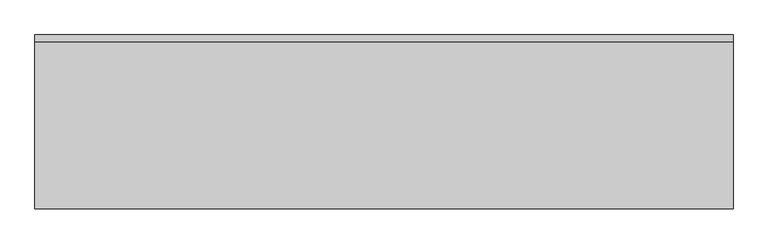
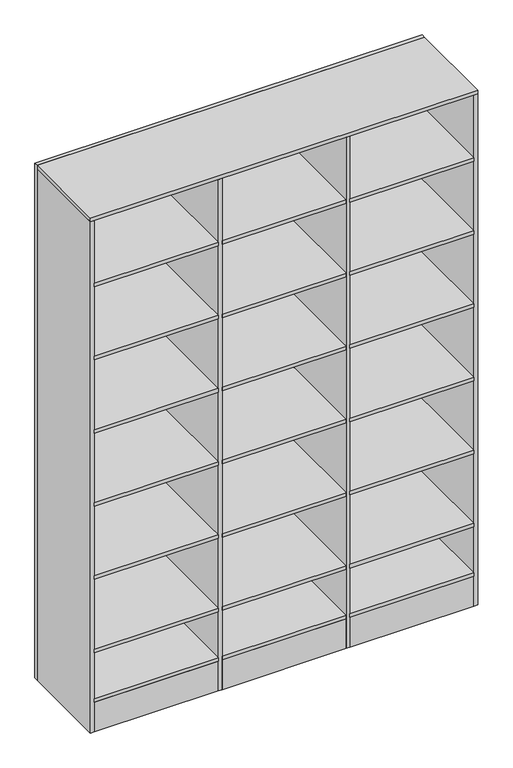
"""IFC4 building model written with IfcOpenShell, lengths in millimetres: furniture geometry, C20 Estanteria grande ADM : C20.3 Estanteria grande 46."""

from ifc_helpers import new_model, si_unit, frame, origin, place, context, project, spatial, polyline, outline, extrude, source, transform, mapped, element, save


def furniture_3ae75f37(model_context):
    return source(origin(), model_context, "Body", "SweptSolid", [
        extrude(outline(polyline([(969.7003264, 0.0), (969.7003264, -18.0), (-880.2996736, -18.0), (-880.2996736, 0.0), (969.7003264, 0.0)])), frame((0.0, 0.0, 20.0), z_axis=(0.0, 0.0, 1.0), x_axis=(1.0, 0.0, 0.0)), (0.0, 0.0, 1.0), 2600.0),
        extrude(outline(polyline([(951.7003264, -460.0), (359.0336598, -460.0), (359.0336598, -18.0), (951.7003264, -18.0), (951.7003264, -460.0)])), frame((0.0, 0.0, 789.6), z_axis=(0.0, 0.0, 1.0), x_axis=(1.0, 0.0, 0.0)), (0.0, 0.0, 1.0), 18.0),
        extrude(outline(polyline([(951.7003264, -460.0), (359.0336598, -460.0), (359.0336598, -18.0), (951.7003264, -18.0), (951.7003264, -460.0)])), frame((0.0, 0.0, 1159.2), z_axis=(0.0, 0.0, 1.0), x_axis=(1.0, 0.0, 0.0)), (0.0, 0.0, 1.0), 18.0),
        extrude(outline(polyline([(341.0336598, -460.0), (-251.6330069, -460.0), (-251.6330069, -18.0), (341.0336598, -18.0), (341.0336598, -460.0)])), frame((0.0, 0.0, 789.6), z_axis=(0.0, 0.0, 1.0), x_axis=(1.0, 0.0, 0.0)), (0.0, 0.0, 1.0), 18.0),
        extrude(outline(polyline([(341.0336598, -460.0), (-251.6330069, -460.0), (-251.6330069, -18.0), (341.0336598, -18.0), (341.0336598, -460.0)])), frame((0.0, 0.0, 1159.2), z_axis=(0.0, 0.0, 1.0), x_axis=(1.0, 0.0, 0.0)), (0.0, 0.0, 1.0), 18.0),
        extrude(outline(polyline([(-269.6330069, -460.0), (-862.2996736, -460.0), (-862.2996736, -18.0), (-269.6330069, -18.0), (-269.6330069, -460.0)])), frame((0.0, 0.0, 789.6), z_axis=(0.0, 0.0, 1.0), x_axis=(1.0, 0.0, 0.0)), (0.0, 0.0, 1.0), 18.0),
        extrude(outline(polyline([(-269.6330069, -460.0), (-862.2996736, -460.0), (-862.2996736, -18.0), (-269.6330069, -18.0), (-269.6330069, -460.0)])), frame((0.0, 0.0, 1159.2), z_axis=(0.0, 0.0, 1.0), x_axis=(1.0, 0.0, 0.0)), (0.0, 0.0, 1.0), 18.0),
        extrude(outline(polyline([(951.7003264, -460.0), (359.0336598, -460.0), (359.0336598, -18.0), (951.7003264, -18.0), (951.7003264, -460.0)])), frame((0.0, 0.0, 420.0), z_axis=(0.0, 0.0, 1.0), x_axis=(1.0, 0.0, 0.0)), (0.0, 0.0, 1.0), 18.0),
        extrude(outline(polyline([(341.0336598, -460.0), (-251.6330069, -460.0), (-251.6330069, -18.0), (341.0336598, -18.0), (341.0336598, -460.0)])), frame((0.0, 0.0, 420.0), z_axis=(0.0, 0.0, 1.0), x_axis=(1.0, 0.0, 0.0)), (0.0, 0.0, 1.0), 18.0),
        extrude(outline(polyline([(-269.6330069, -460.0), (-862.2996736, -460.0), (-862.2996736, -18.0), (-269.6330069, -18.0), (-269.6330069, -460.0)])), frame((0.0, 0.0, 420.0), z_axis=(0.0, 0.0, 1.0), x_axis=(1.0, 0.0, 0.0)), (0.0, 0.0, 1.0), 18.0),
        extrude(outline(polyline([(951.7003264, -460.0), (359.0336598, -460.0), (359.0336598, -18.0), (951.7003264, -18.0), (951.7003264, -460.0)])), frame((0.0, 0.0, 170.0), z_axis=(0.0, 0.0, 1.0), x_axis=(1.0, 0.0, 0.0)), (0.0, 0.0, 1.0), 18.0),
        extrude(outline(polyline([(341.0336598, -460.0), (-251.6330069, -460.0), (-251.6330069, -18.0), (341.0336598, -18.0), (341.0336598, -460.0)])), frame((0.0, 0.0, 170.0), z_axis=(0.0, 0.0, 1.0), x_axis=(1.0, 0.0, 0.0)), (0.0, 0.0, 1.0), 18.0),
        extrude(outline(polyline([(-269.6330069, -460.0), (-862.2996736, -460.0), (-862.2996736, -18.0), (-269.6330069, -18.0), (-269.6330069, -460.0)])), frame((0.0, 0.0, 170.0), z_axis=(0.0, 0.0, 1.0), x_axis=(1.0, 0.0, 0.0)), (0.0, 0.0, 1.0), 18.0),
        extrude(outline(polyline([(969.7003264, -460.0), (-880.2996736, -460.0), (-880.2996736, -18.0), (969.7003264, -18.0), (969.7003264, -460.0)])), frame((0.0, 0.0, 2602.0), z_axis=(0.0, 0.0, 1.0), x_axis=(1.0, 0.0, 0.0)), (0.0, 0.0, 1.0), 18.0),
        extrude(outline(polyline([(951.7003264, -460.0), (359.0336598, -460.0), (359.0336598, -18.0), (951.7003264, -18.0), (951.7003264, -460.0)])), frame((0.0, 0.0, 1528.8), z_axis=(0.0, 0.0, 1.0), x_axis=(1.0, 0.0, 0.0)), (0.0, 0.0, 1.0), 18.0),
        extrude(outline(polyline([(951.7003264, -460.0), (359.0336598, -460.0), (359.0336598, -18.0), (951.7003264, -18.0), (951.7003264, -460.0)])), frame((0.0, 0.0, 1898.4), z_axis=(0.0, 0.0, 1.0), x_axis=(1.0, 0.0, 0.0)), (0.0, 0.0, 1.0), 18.0),
        extrude(outline(polyline([(951.7003264, -460.0), (359.0336598, -460.0), (359.0336598, -18.0), (951.7003264, -18.0), (951.7003264, -460.0)])), frame((0.0, 0.0, 2268.0), z_axis=(0.0, 0.0, 1.0), x_axis=(1.0, 0.0, 0.0)), (0.0, 0.0, 1.0), 18.0),
        extrude(outline(polyline([(341.0336598, -460.0), (-251.6330069, -460.0), (-251.6330069, -18.0), (341.0336598, -18.0), (341.0336598, -460.0)])), frame((0.0, 0.0, 1528.8), z_axis=(0.0, 0.0, 1.0), x_axis=(1.0, 0.0, 0.0)), (0.0, 0.0, 1.0), 18.0),
        extrude(outline(polyline([(341.0336598, -460.0), (-251.6330069, -460.0), (-251.6330069, -18.0), (341.0336598, -18.0), (341.0336598, -460.0)])), frame((0.0, 0.0, 1898.4), z_axis=(0.0, 0.0, 1.0), x_axis=(1.0, 0.0, 0.0)), (0.0, 0.0, 1.0), 18.0),
        extrude(outline(polyline([(341.0336598, -460.0), (-251.6330069, -460.0), (-251.6330069, -18.0), (341.0336598, -18.0), (341.0336598, -460.0)])), frame((0.0, 0.0, 2268.0), z_axis=(0.0, 0.0, 1.0), x_axis=(1.0, 0.0, 0.0)), (0.0, 0.0, 1.0), 18.0),
        extrude(outline(polyline([(-269.6330069, -460.0), (-862.2996736, -460.0), (-862.2996736, -18.0), (-269.6330069, -18.0), (-269.6330069, -460.0)])), frame((0.0, 0.0, 1528.8), z_axis=(0.0, 0.0, 1.0), x_axis=(1.0, 0.0, 0.0)), (0.0, 0.0, 1.0), 18.0),
        extrude(outline(polyline([(-269.6330069, -460.0), (-862.2996736, -460.0), (-862.2996736, -18.0), (-269.6330069, -18.0), (-269.6330069, -460.0)])), frame((0.0, 0.0, 1898.4), z_axis=(0.0, 0.0, 1.0), x_axis=(1.0, 0.0, 0.0)), (0.0, 0.0, 1.0), 18.0),
        extrude(outline(polyline([(-269.6330069, -460.0), (-862.2996736, -460.0), (-862.2996736, -18.0), (-269.6330069, -18.0), (-269.6330069, -460.0)])), frame((0.0, 0.0, 2268.0), z_axis=(0.0, 0.0, 1.0), x_axis=(1.0, 0.0, 0.0)), (0.0, 0.0, 1.0), 18.0),
        extrude(outline(polyline([(969.7003264, -460.0), (951.7003264, -460.0), (951.7003264, -18.0), (969.7003264, -18.0), (969.7003264, -460.0)])), frame((0.0, 0.0, 20.0), z_axis=(0.0, 0.0, 1.0), x_axis=(1.0, 0.0, 0.0)), (0.0, 0.0, 1.0), 2582.0),
        extrude(outline(polyline([(-880.2996736, -18.0), (-862.2996736, -18.0), (-862.2996736, -460.0), (-880.2996736, -460.0), (-880.2996736, -18.0)])), frame((0.0, 0.0, 20.0), z_axis=(0.0, 0.0, 1.0), x_axis=(1.0, 0.0, 0.0)), (0.0, 0.0, 1.0), 2582.0),
        extrude(outline(polyline([(-269.6330069, -18.0), (-251.6330069, -18.0), (-251.6330069, -460.0), (-269.6330069, -460.0), (-269.6330069, -18.0)])), frame((0.0, 0.0, 20.0), z_axis=(0.0, 0.0, 1.0), x_axis=(1.0, 0.0, 0.0)), (0.0, 0.0, 1.0), 2582.0),
        extrude(outline(polyline([(341.0336598, -18.0), (359.0336598, -18.0), (359.0336598, -460.0), (341.0336598, -460.0), (341.0336598, -18.0)])), frame((0.0, 0.0, 20.0), z_axis=(0.0, 0.0, 1.0), x_axis=(1.0, 0.0, 0.0)), (0.0, 0.0, 1.0), 2582.0),
        extrude(outline(polyline([(-269.6330069, -460.0), (-862.2996736, -460.0), (-862.2996736, -448.0), (-269.6330069, -448.0), (-269.6330069, -460.0)])), frame((0.0, 0.0, 20.0), z_axis=(0.0, 0.0, 1.0), x_axis=(1.0, 0.0, 0.0)), (0.0, 0.0, 1.0), 150.0),
        extrude(outline(polyline([(341.0336598, -460.0), (-251.6330069, -460.0), (-251.6330069, -448.0), (341.0336598, -448.0), (341.0336598, -460.0)])), frame((0.0, 0.0, 20.0), z_axis=(0.0, 0.0, 1.0), x_axis=(1.0, 0.0, 0.0)), (0.0, 0.0, 1.0), 150.0),
        extrude(outline(polyline([(951.7003264, -460.0), (359.0336598, -460.0), (359.0336598, -448.0), (951.7003264, -448.0), (951.7003264, -460.0)])), frame((0.0, 0.0, 20.0), z_axis=(0.0, 0.0, 1.0), x_axis=(1.0, 0.0, 0.0)), (0.0, 0.0, 1.0), 150.0),
    ])


if __name__ == "__main__":
    model = new_model("IFC4")
    model_context = context("Model", 3, world=origin())
    ifc_project = project(units=[si_unit("LENGTHUNIT", "METRE", prefix="MILLI")], contexts=[model_context])
    site = spatial("IfcSite", under=ifc_project)
    building = spatial("IfcBuilding", under=site)
    placement = place(None, origin())
    furniture_shape = furniture_3ae75f37(model_context)
    element("IfcFurniture", 1, ObjectType="C20 Estanteria grande ADM : C20.3 Estanteria grande 46", at=placement, inside=building, context=model_context, shape_type="MappedRepresentation", body=[
        mapped(furniture_shape, transform((0.0, 0.0, 0.0), x_axis=(1.0, 0.0, 0.0), y_axis=(0.0, 1.0, 0.0), z_axis=(0.0, 0.0, 1.0))),
    ])
    save(model, "model.ifc")
